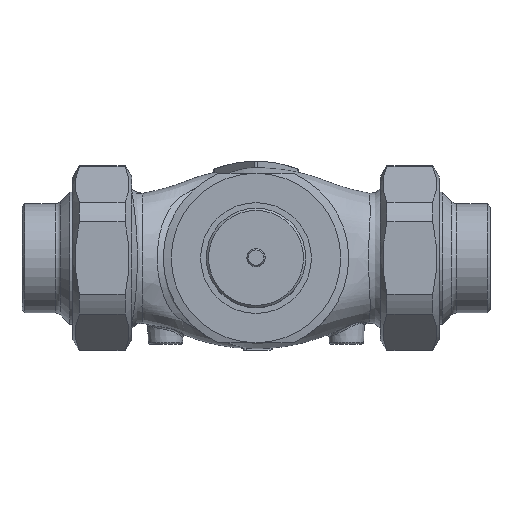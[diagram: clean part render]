
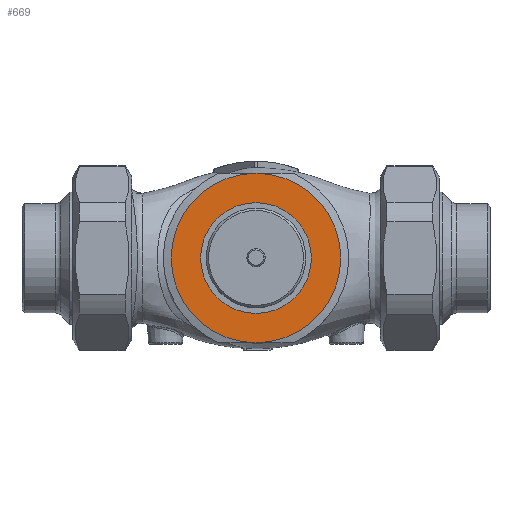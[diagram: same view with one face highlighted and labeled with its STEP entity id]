
A CAD part, top view. The second image highlights one B-rep face of the part: STEP entity #669.
In plain terms, the highlighted planar face has unit normal (0, 0, 1).
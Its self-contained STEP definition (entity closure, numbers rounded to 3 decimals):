
#669=ADVANCED_FACE('',(#912,#913),#756,.T.);
#756=PLANE('',#2485);
#912=FACE_BOUND('',#1140,.T.);
#913=FACE_BOUND('',#1141,.T.);
#1140=EDGE_LOOP('',(#1525));
#1141=EDGE_LOOP('',(#1526,#1527));
#1525=ORIENTED_EDGE('',*,*,#2045,.F.);
#1526=ORIENTED_EDGE('',*,*,#2083,.T.);
#1527=ORIENTED_EDGE('',*,*,#2074,.T.);
#1825=VERTEX_POINT('',#11747);
#1848=VERTEX_POINT('',#11821);
#1850=VERTEX_POINT('',#11828);
#2045=EDGE_CURVE('',#1825,#1825,#2240,.T.);
#2074=EDGE_CURVE('',#1848,#1850,#2255,.T.);
#2083=EDGE_CURVE('',#1850,#1848,#2259,.T.);
#2240=CIRCLE('',#2430,19.);
#2255=CIRCLE('',#2471,37.5);
#2259=CIRCLE('',#2478,37.5);
#2430=AXIS2_PLACEMENT_3D('',#11746,#2839,#2840);
#2471=AXIS2_PLACEMENT_3D('',#11829,#2929,#2930);
#2478=AXIS2_PLACEMENT_3D('',#11856,#2945,#2946);
#2485=AXIS2_PLACEMENT_3D('',#11879,#2961,#2962);
#2839=DIRECTION('',(0.,0.,1.));
#2840=DIRECTION('',(-1.,0.,0.));
#2929=DIRECTION('',(0.,0.,1.));
#2930=DIRECTION('',(1.,0.,0.));
#2945=DIRECTION('',(0.,0.,1.));
#2946=DIRECTION('',(1.,0.,0.));
#2961=DIRECTION('',(0.,0.,1.));
#2962=DIRECTION('',(1.,0.,0.));
#11746=CARTESIAN_POINT('',(0.,0.,67.));
#11747=CARTESIAN_POINT('',(-19.,0.,67.));
#11821=CARTESIAN_POINT('',(0.,37.5,67.));
#11828=CARTESIAN_POINT('',(0.,-37.5,67.));
#11829=CARTESIAN_POINT('',(0.,0.,67.));
#11856=CARTESIAN_POINT('',(0.,0.,67.));
#11879=CARTESIAN_POINT('',(25.5,0.,67.));
